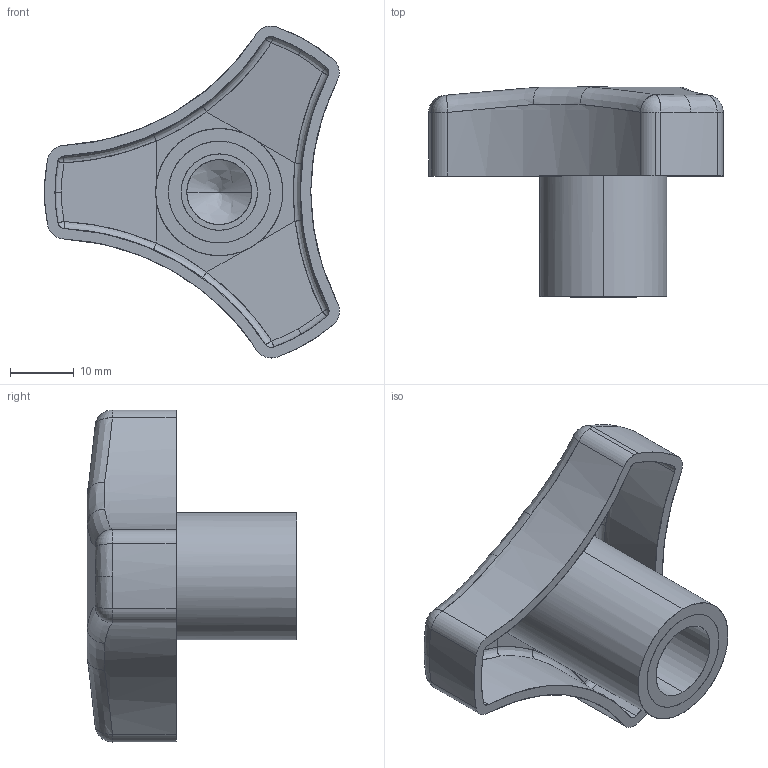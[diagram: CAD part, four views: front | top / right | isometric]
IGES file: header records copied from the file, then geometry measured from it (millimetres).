
Start section: SolidWorks IGES file using analytic representation for surfaces
Global section: file name: C:\Users\IanO\Desktop\Temp File\Process pending\70640_v2\70640_v2_20171022_IGES\70640.W0157.igs; native system: SolidWorks 2017; preprocessor: SolidWorks 2017; author: IanO; date: 171102.143340; units: millimetre
Bounding box: 46.42 x 33 x 52.23 mm (x, y, z)
Surface area: 12040.6 mm2 (no closed solid volume)
Topology: 0 solids, 0 shells, 101 faces, 1169 edges, 1166 vertices
Faces by surface type: revolution 56, bspline 45
